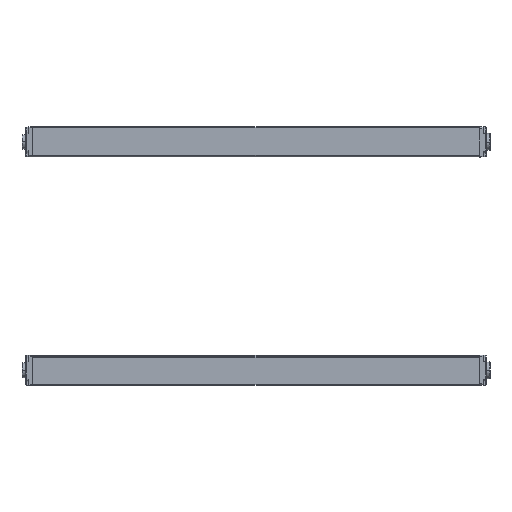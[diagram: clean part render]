
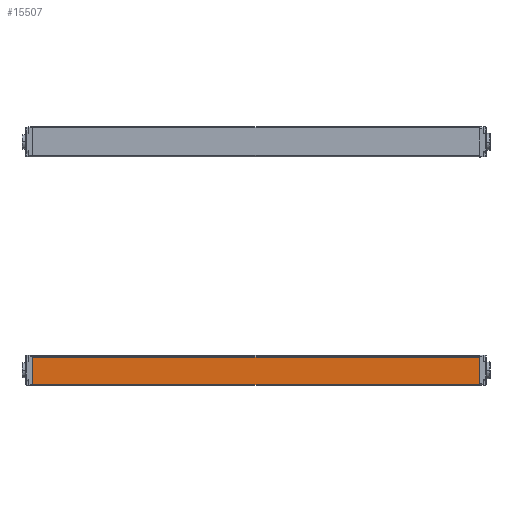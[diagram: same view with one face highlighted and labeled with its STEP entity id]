
A CAD part, left-side view. The second image highlights one B-rep face of the part: STEP entity #15507.
In plain terms, the highlighted planar face has unit normal (-1, 0, -0.009) as drawn and (1, 0, 0) by its records, which use the part's own axes.
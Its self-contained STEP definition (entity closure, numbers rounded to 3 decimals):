
#133 = DIRECTION ( 'NONE',  ( 0., 1., 0. ) ) ;
#511 = CARTESIAN_POINT ( 'NONE',  ( 15., 0., 10.9 ) ) ;
#1039 = DIRECTION ( 'NONE',  ( 0., 0., 1. ) ) ;
#1296 = CARTESIAN_POINT ( 'NONE',  ( 15., 450., 10.9 ) ) ;
#1769 = LINE ( 'NONE', #7349, #8942 ) ;
#1994 = CARTESIAN_POINT ( 'NONE',  ( 15., 0., -16.9 ) ) ;
#2404 = PLANE ( 'NONE',  #14883 ) ;
#2624 = VERTEX_POINT ( 'NONE', #16764 ) ;
#3008 = CARTESIAN_POINT ( 'NONE',  ( 15., 450., 10.9 ) ) ;
#3358 = VERTEX_POINT ( 'NONE', #3008 ) ;
#4403 = VERTEX_POINT ( 'NONE', #511 ) ;
#4867 = VECTOR ( 'NONE', #6878, 1000. ) ;
#5818 = ORIENTED_EDGE ( 'NONE', *, *, #6992, .T. ) ;
#6878 = DIRECTION ( 'NONE',  ( 0., -1., 0. ) ) ;
#6887 = VECTOR ( 'NONE', #7555, 1000. ) ;
#6992 = EDGE_CURVE ( 'NONE', #3358, #4403, #13775, .T. ) ;
#7070 = LINE ( 'NONE', #12607, #7709 ) ;
#7349 = CARTESIAN_POINT ( 'NONE',  ( 15., 450., -16.9 ) ) ;
#7555 = DIRECTION ( 'NONE',  ( 0., 0., -1. ) ) ;
#7589 = ORIENTED_EDGE ( 'NONE', *, *, #11801, .T. ) ;
#7709 = VECTOR ( 'NONE', #133, 1000. ) ;
#7979 = CARTESIAN_POINT ( 'NONE',  ( 15., 450., -16.9 ) ) ;
#8494 = ORIENTED_EDGE ( 'NONE', *, *, #13458, .F. ) ;
#8942 = VECTOR ( 'NONE', #12887, 1000. ) ;
#10752 = EDGE_CURVE ( 'NONE', #2624, #14493, #7070, .T. ) ;
#10910 = ORIENTED_EDGE ( 'NONE', *, *, #10752, .T. ) ;
#11801 = EDGE_CURVE ( 'NONE', #4403, #2624, #14470, .T. ) ;
#12607 = CARTESIAN_POINT ( 'NONE',  ( 15., 450., -16.693 ) ) ;
#12887 = DIRECTION ( 'NONE',  ( 0., 0., -1. ) ) ;
#12899 = EDGE_LOOP ( 'NONE', ( #7589, #10910, #8494, #5818 ) ) ;
#13458 = EDGE_CURVE ( 'NONE', #3358, #14493, #1769, .T. ) ;
#13520 = DIRECTION ( 'NONE',  ( -1., 0., 0. ) ) ;
#13775 = LINE ( 'NONE', #1296, #4867 ) ;
#14470 = LINE ( 'NONE', #1994, #6887 ) ;
#14493 = VERTEX_POINT ( 'NONE', #17547 ) ;
#14873 = FACE_OUTER_BOUND ( 'NONE', #12899, .T. ) ;
#14883 = AXIS2_PLACEMENT_3D ( 'NONE', #7979, #13520, #1039 ) ;
#15507 = ADVANCED_FACE ( 'NONE', ( #14873 ), #2404, .F. ) ;
#16764 = CARTESIAN_POINT ( 'NONE',  ( 15., 0., -16.693 ) ) ;
#17547 = CARTESIAN_POINT ( 'NONE',  ( 15., 450., -16.693 ) ) ;
